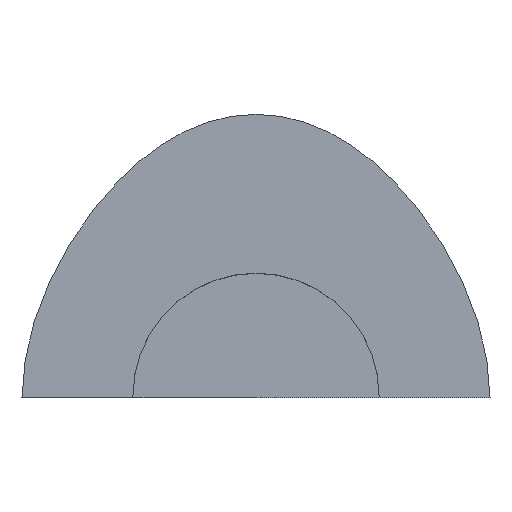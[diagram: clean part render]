
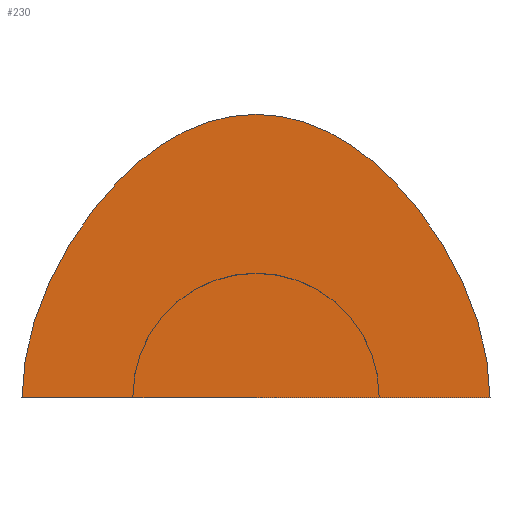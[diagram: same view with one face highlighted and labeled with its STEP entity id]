
A CAD part, top view. The second image highlights one B-rep face of the part: STEP entity #230.
In plain terms, the highlighted planar face has unit normal (0, 0, 1).
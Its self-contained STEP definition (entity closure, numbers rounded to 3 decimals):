
#193=CARTESIAN_POINT('Axis2P3D Location',(0.,46.6,0.)) ;
#198=CARTESIAN_POINT('Line Origine',(0.,0.,0.)) ;
#202=CARTESIAN_POINT('Vertex',(-95.,0.,0.)) ;
#204=CARTESIAN_POINT('Vertex',(95.,0.,0.)) ;
#208=CARTESIAN_POINT('Control Point',(0.,115.,0.)) ;
#209=CARTESIAN_POINT('Control Point',(29.833,115.,0.)) ;
#210=CARTESIAN_POINT('Control Point',(57.312,97.437,0.)) ;
#211=CARTESIAN_POINT('Control Point',(82.437,62.312,0.)) ;
#212=CARTESIAN_POINT('Control Point',(95.,29.833,0.)) ;
#213=CARTESIAN_POINT('Control Point',(95.,0.,0.)) ;
#214=CARTESIAN_POINT('Vertex',(0.,115.,0.)) ;
#218=CARTESIAN_POINT('Control Point',(0.,115.,0.)) ;
#219=CARTESIAN_POINT('Control Point',(-29.833,115.,0.)) ;
#220=CARTESIAN_POINT('Control Point',(-57.312,97.437,0.)) ;
#221=CARTESIAN_POINT('Control Point',(-82.437,62.312,0.)) ;
#222=CARTESIAN_POINT('Control Point',(-95.,29.833,0.)) ;
#223=CARTESIAN_POINT('Control Point',(-95.,0.,0.)) ;
#194=DIRECTION('Axis2P3D Direction',(0.,0.,1.)) ;
#195=DIRECTION('Axis2P3D XDirection',(1.,0.,0.)) ;
#199=DIRECTION('Vector Direction',(1.,0.,0.)) ;
#196=AXIS2_PLACEMENT_3D('Plane Axis2P3D',#193,#194,#195) ;
#226=ORIENTED_EDGE('',*,*,#206,.T.) ;
#227=ORIENTED_EDGE('',*,*,#216,.T.) ;
#228=ORIENTED_EDGE('',*,*,#224,.T.) ;
#200=VECTOR('Line Direction',#199,1.) ;
#230=ADVANCED_FACE('Fill.1',(#229),#197,.T.) ;
#207=B_SPLINE_CURVE_WITH_KNOTS('',5,(#208,#209,#210,#211,#212,#213),.UNSPECIFIED.,.F.,.U.,(6,6),(0.,149.164),.UNSPECIFIED.) ;
#217=B_SPLINE_CURVE_WITH_KNOTS('',5,(#218,#219,#220,#221,#222,#223),.UNSPECIFIED.,.F.,.U.,(6,6),(0.,149.164),.UNSPECIFIED.) ;
#206=EDGE_CURVE('',#203,#205,#201,.T.) ;
#216=EDGE_CURVE('',#205,#215,#207,.F.) ;
#224=EDGE_CURVE('',#215,#203,#217,.T.) ;
#225=EDGE_LOOP('',(#226,#227,#228)) ;
#229=FACE_OUTER_BOUND('',#225,.T.) ;
#201=LINE('Line',#198,#200) ;
#197=PLANE('',#196) ;
#203=VERTEX_POINT('',#202) ;
#205=VERTEX_POINT('',#204) ;
#215=VERTEX_POINT('',#214) ;
